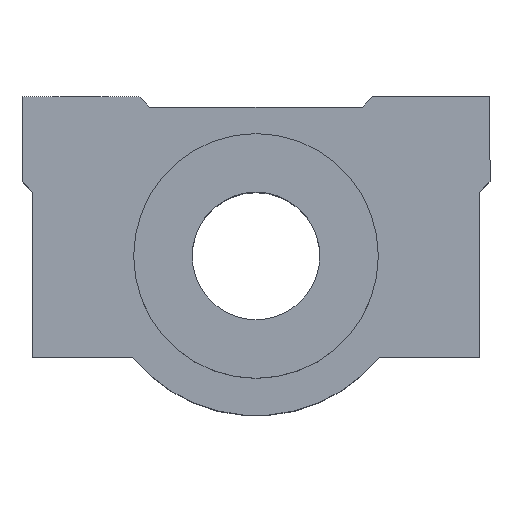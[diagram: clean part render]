
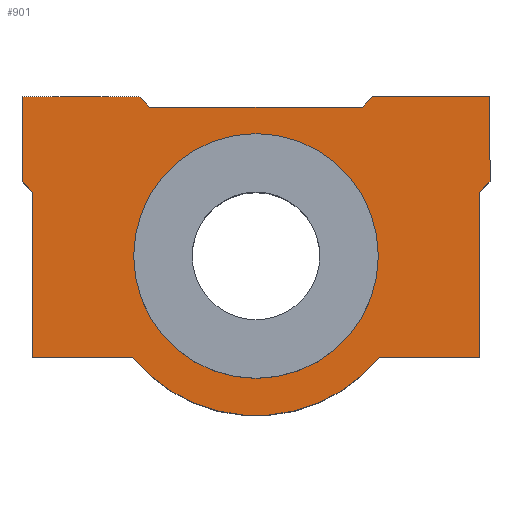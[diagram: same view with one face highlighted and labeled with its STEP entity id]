
A CAD part, top view. The second image highlights one B-rep face of the part: STEP entity #901.
In plain terms, the highlighted planar face has unit normal (0, 0, 1).
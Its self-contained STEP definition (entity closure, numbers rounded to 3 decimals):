
#133=CARTESIAN_POINT('',(-12.209,4.198,26.15));
#134=VERTEX_POINT('',#133);
#143=CARTESIAN_POINT('',(10.791,4.198,26.15));
#144=VERTEX_POINT('',#143);
#145=CARTESIAN_POINT('',(-0.709,4.198,26.15));
#146=DIRECTION('',(0.0,0.0,1.0));
#147=DIRECTION('',(-1.0,0.0,0.0));
#148=AXIS2_PLACEMENT_3D('',#145,#146,#147);
#149=CIRCLE('',#148,11.5);
#150=EDGE_CURVE('',#134,#144,#149,.T.);
#522=CARTESIAN_POINT('',(21.291,11.198,26.15));
#523=VERTEX_POINT('',#522);
#524=CARTESIAN_POINT('',(20.291,10.198,26.15));
#525=VERTEX_POINT('',#524);
#526=CARTESIAN_POINT('',(21.291,11.198,26.15));
#527=DIRECTION('',(-0.707,-0.707,0.0));
#528=VECTOR('',#527,1.414);
#529=LINE('',#526,#528);
#530=EDGE_CURVE('',#523,#525,#529,.T.);
#553=CARTESIAN_POINT('',(20.291,-5.302,26.15));
#554=VERTEX_POINT('',#553);
#555=CARTESIAN_POINT('',(20.291,10.198,26.15));
#556=DIRECTION('',(0.0,-1.0,0.0));
#557=VECTOR('',#556,15.5);
#558=LINE('',#555,#557);
#559=EDGE_CURVE('',#525,#554,#558,.T.);
#577=CARTESIAN_POINT('',(10.899,-5.302,26.15));
#578=VERTEX_POINT('',#577);
#579=CARTESIAN_POINT('',(20.291,-5.302,26.15));
#580=DIRECTION('',(-1.0,0.0,0.0));
#581=VECTOR('',#580,9.392);
#582=LINE('',#579,#581);
#583=EDGE_CURVE('',#554,#578,#582,.T.);
#605=CARTESIAN_POINT('',(-12.317,-5.302,26.15));
#606=VERTEX_POINT('',#605);
#607=CARTESIAN_POINT('',(-0.709,4.198,26.15));
#608=DIRECTION('',(0.0,0.0,-1.));
#609=DIRECTION('',(0.774,0.633,0.0));
#610=AXIS2_PLACEMENT_3D('',#607,#608,#609);
#611=CIRCLE('',#610,15.0);
#612=EDGE_CURVE('',#578,#606,#611,.T.);
#630=CARTESIAN_POINT('',(-21.709,-5.302,26.15));
#631=VERTEX_POINT('',#630);
#632=CARTESIAN_POINT('',(-12.317,-5.302,26.15));
#633=DIRECTION('',(-1.0,0.0,0.0));
#634=VECTOR('',#633,9.392);
#635=LINE('',#632,#634);
#636=EDGE_CURVE('',#606,#631,#635,.T.);
#658=CARTESIAN_POINT('',(-21.709,10.198,26.15));
#659=VERTEX_POINT('',#658);
#660=CARTESIAN_POINT('',(-21.709,-5.302,26.15));
#661=DIRECTION('',(0.0,1.0,0.0));
#662=VECTOR('',#661,15.5);
#663=LINE('',#660,#662);
#664=EDGE_CURVE('',#631,#659,#663,.T.);
#682=CARTESIAN_POINT('',(-22.709,11.198,26.15));
#683=VERTEX_POINT('',#682);
#684=CARTESIAN_POINT('',(-21.709,10.198,26.15));
#685=DIRECTION('',(-0.707,0.707,0.0));
#686=VECTOR('',#685,1.414);
#687=LINE('',#684,#686);
#688=EDGE_CURVE('',#659,#683,#687,.T.);
#706=CARTESIAN_POINT('',(-22.709,19.198,26.15));
#707=VERTEX_POINT('',#706);
#708=CARTESIAN_POINT('',(-22.709,11.198,26.15));
#709=DIRECTION('',(0.0,1.0,0.0));
#710=VECTOR('',#709,8.);
#711=LINE('',#708,#710);
#712=EDGE_CURVE('',#683,#707,#711,.T.);
#730=CARTESIAN_POINT('',(-11.709,19.198,26.15));
#731=VERTEX_POINT('',#730);
#732=CARTESIAN_POINT('',(-22.709,19.198,26.15));
#733=DIRECTION('',(1.0,0.0,0.0));
#734=VECTOR('',#733,11.);
#735=LINE('',#732,#734);
#736=EDGE_CURVE('',#707,#731,#735,.T.);
#758=CARTESIAN_POINT('',(-10.709,18.198,26.15));
#759=VERTEX_POINT('',#758);
#760=CARTESIAN_POINT('',(-11.709,19.198,26.15));
#761=DIRECTION('',(0.707,-0.707,0.0));
#762=VECTOR('',#761,1.414);
#763=LINE('',#760,#762);
#764=EDGE_CURVE('',#731,#759,#763,.T.);
#782=CARTESIAN_POINT('',(9.291,18.198,26.15));
#783=VERTEX_POINT('',#782);
#784=CARTESIAN_POINT('',(-10.709,18.198,26.15));
#785=DIRECTION('',(1.0,0.0,0.0));
#786=VECTOR('',#785,20.0);
#787=LINE('',#784,#786);
#788=EDGE_CURVE('',#759,#783,#787,.T.);
#806=CARTESIAN_POINT('',(10.291,19.198,26.15));
#807=VERTEX_POINT('',#806);
#808=CARTESIAN_POINT('',(9.291,18.198,26.15));
#809=DIRECTION('',(0.707,0.707,0.0));
#810=VECTOR('',#809,1.414);
#811=LINE('',#808,#810);
#812=EDGE_CURVE('',#783,#807,#811,.T.);
#830=CARTESIAN_POINT('',(21.291,19.198,26.15));
#831=VERTEX_POINT('',#830);
#832=CARTESIAN_POINT('',(10.291,19.198,26.15));
#833=DIRECTION('',(1.0,0.0,0.0));
#834=VECTOR('',#833,11.);
#835=LINE('',#832,#834);
#836=EDGE_CURVE('',#807,#831,#835,.T.);
#858=CARTESIAN_POINT('',(21.291,19.198,26.15));
#859=DIRECTION('',(0.0,-1.0,0.0));
#860=VECTOR('',#859,8.0);
#861=LINE('',#858,#860);
#862=EDGE_CURVE('',#831,#523,#861,.T.);
#870=CARTESIAN_POINT('',(-0.709,6.156,26.15));
#871=DIRECTION('',(0.0,0.0,1.0));
#872=DIRECTION('',(1.0,0.0,0.0));
#873=AXIS2_PLACEMENT_3D('',#870,#871,#872);
#874=PLANE('',#873);
#875=ORIENTED_EDGE('',*,*,#530,.F.);
#876=ORIENTED_EDGE('',*,*,#862,.F.);
#877=ORIENTED_EDGE('',*,*,#836,.F.);
#878=ORIENTED_EDGE('',*,*,#812,.F.);
#879=ORIENTED_EDGE('',*,*,#788,.F.);
#880=ORIENTED_EDGE('',*,*,#764,.F.);
#881=ORIENTED_EDGE('',*,*,#736,.F.);
#882=ORIENTED_EDGE('',*,*,#712,.F.);
#883=ORIENTED_EDGE('',*,*,#688,.F.);
#884=ORIENTED_EDGE('',*,*,#664,.F.);
#885=ORIENTED_EDGE('',*,*,#636,.F.);
#886=ORIENTED_EDGE('',*,*,#612,.F.);
#887=ORIENTED_EDGE('',*,*,#583,.F.);
#888=ORIENTED_EDGE('',*,*,#559,.F.);
#889=EDGE_LOOP('',(#875,#876,#877,#878,#879,#880,#881,#882,#883,#884,#885,#886,#887,#888));
#890=FACE_OUTER_BOUND('',#889,.T.);
#891=CARTESIAN_POINT('',(-0.709,4.198,26.15));
#892=DIRECTION('',(0.0,0.0,1.0));
#893=DIRECTION('',(-1.0,0.0,0.0));
#894=AXIS2_PLACEMENT_3D('',#891,#892,#893);
#895=CIRCLE('',#894,11.5);
#896=EDGE_CURVE('',#144,#134,#895,.T.);
#897=ORIENTED_EDGE('',*,*,#896,.F.);
#898=ORIENTED_EDGE('',*,*,#150,.F.);
#899=EDGE_LOOP('',(#897,#898));
#900=FACE_BOUND('',#899,.T.);
#901=ADVANCED_FACE('',(#890,#900),#874,.T.);
